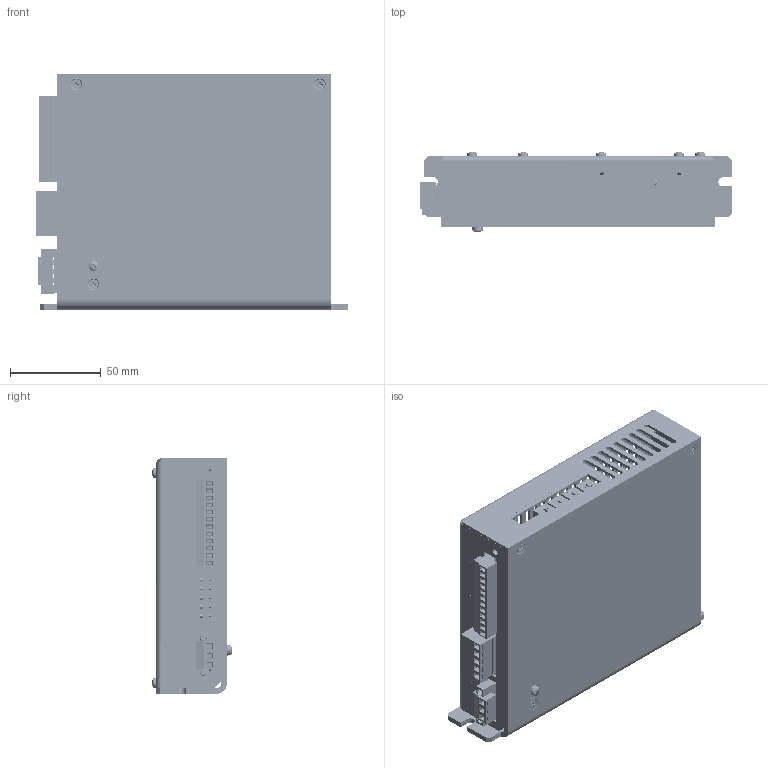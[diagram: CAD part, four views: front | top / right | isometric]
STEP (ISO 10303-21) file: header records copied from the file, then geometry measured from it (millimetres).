
FILE_DESCRIPTION (( 'STEP AP214' ), '1' );
FILE_NAME ('EXD5314MS.STEP', '2021-12-09T09:26:57', ( 'mu' ), ( '' ), 'SwSTEP 2.0', 'SolidWorks 2021', '' );
FILE_SCHEMA (( 'AUTOMOTIVE_DESIGN' ));
Length unit declared in the file: millimetre
Products named in the file (15): 15EDGRM-5.08-03P-14-00AH; 15EDGRC-5.08- 12P-14-00A(H); pan head cross recess screw_iso_ISO 7045 - M3 x 10 - Z - 10S; 15EDGK-5.08-12P-14-00A(H); N4; EXD5314MS底板; 15EDGKM-5.08-03P-14-00AH; countersunk flat head cross recess screw_iso_ISO 7046-1 - M3 x 10 - Z - 10S; EXD5314MS; spring lock washer_2_jis_JIS B 1251 No.2 3; M4; PCBｪO; SMD DIP SWITCH 5P; DIP Switch; EXD5314MS上蓋
Assembly tree (27 placements, depth 2):
  EXD5314MS
    EXD5314MS上蓋
    DIP Switch  x4
    15EDGRC-5.08- 12P-14-00A(H)
    15EDGK-5.08-12P-14-00A(H)
    N4
    M4
    15EDGRM-5.08-03P-14-00AH
    15EDGKM-5.08-03P-14-00AH
    SMD DIP SWITCH 5P
    PCBｪO
    EXD5314MS底板
    countersunk flat head cross recess screw_iso_ISO 7046-1 - M3 x 10 - Z - 10S  x6
    pan head cross recess screw_iso_ISO 7045 - M3 x 10 - Z - 10S  x6
    spring lock washer_2_jis_JIS B 1251 No.2 3
Bounding box: 172.3 x 44.21 x 130.01 mm (x, y, z)
Volume: 167950.1 mm3; surface area: 178012 mm2
Topology: 174 solids, 188 shells, 12672 faces, 34331 edges, 22445 vertices
Faces by surface type: plane 5378, bspline 4664, cylinder 1551, cone 1031, torus 36, sphere 12
Entity records: 361122 total; most frequent: CARTESIAN_POINT 107430, ORIENTED_EDGE 42178, DIRECTION 31920, EDGE_CURVE 21173, VECTOR 14410, LINE 14410, VERTEX_POINT 13913, AXIS2_PLACEMENT_3D 8755
